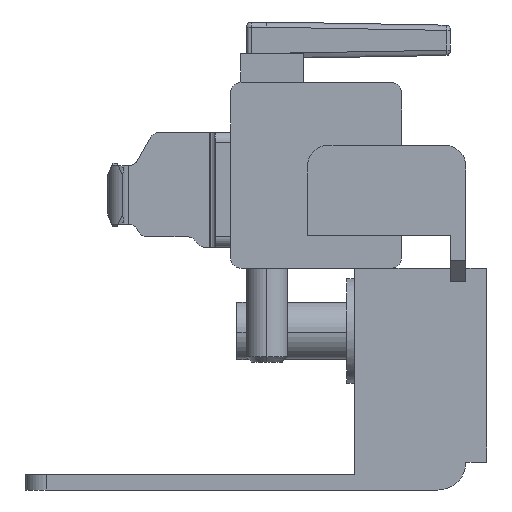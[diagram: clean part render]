
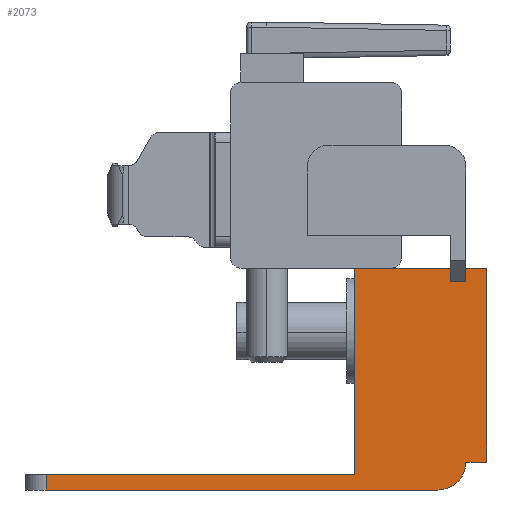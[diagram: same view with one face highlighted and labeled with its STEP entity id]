
A CAD part, left-side view. The second image highlights one B-rep face of the part: STEP entity #2073.
In plain terms, the highlighted planar face has unit normal (-1, 0, 0).
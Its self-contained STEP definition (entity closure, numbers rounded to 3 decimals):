
#7 = VECTOR ( 'NONE', #2552, 1000. ) ;
#42 = PLANE ( 'NONE',  #5022 ) ;
#87 = CARTESIAN_POINT ( 'NONE',  ( -356., -29.063, 23.319 ) ) ;
#98 = EDGE_CURVE ( 'NONE', #1948, #1236, #2447, .T. ) ;
#441 = DIRECTION ( 'NONE',  ( 0., 1., 0. ) ) ;
#808 = EDGE_CURVE ( 'NONE', #5322, #1580, #1227, .T. ) ;
#815 = CARTESIAN_POINT ( 'NONE',  ( -356., -28.333, 40.749 ) ) ;
#896 = CARTESIAN_POINT ( 'NONE',  ( -356., -30.333, 40.749 ) ) ;
#949 = VERTEX_POINT ( 'NONE', #815 ) ;
#979 = CARTESIAN_POINT ( 'NONE',  ( -356., 11.767, 21.019 ) ) ;
#1037 = CARTESIAN_POINT ( 'NONE',  ( -356., -25.663, 22.219 ) ) ;
#1060 = CARTESIAN_POINT ( 'NONE',  ( -356., 11.767, 21.319 ) ) ;
#1121 = EDGE_CURVE ( 'NONE', #2105, #1948, #4058, .T. ) ;
#1133 = EDGE_LOOP ( 'NONE', ( #4303, #1530, #5228, #1799, #1675, #3747, #4416, #3620, #3584, #5391, #2984, #3223 ) ) ;
#1204 = LINE ( 'NONE', #1910, #4711 ) ;
#1227 = LINE ( 'NONE', #3588, #3530 ) ;
#1236 = VERTEX_POINT ( 'NONE', #979 ) ;
#1243 = EDGE_CURVE ( 'NONE', #3176, #1236, #5874, .T. ) ;
#1324 = FACE_OUTER_BOUND ( 'NONE', #1133, .T. ) ;
#1329 = LINE ( 'NONE', #5670, #4964 ) ;
#1371 = CARTESIAN_POINT ( 'NONE',  ( -356., -30.333, 40.749 ) ) ;
#1508 = DIRECTION ( 'NONE',  ( 0., 0., 1. ) ) ;
#1530 = ORIENTED_EDGE ( 'NONE', *, *, #98, .T. ) ;
#1535 = CARTESIAN_POINT ( 'NONE',  ( -356., -30.333, 22.219 ) ) ;
#1536 = CARTESIAN_POINT ( 'NONE',  ( -356., -17.713, 40.749 ) ) ;
#1562 = EDGE_CURVE ( 'NONE', #3176, #4467, #1329, .T. ) ;
#1580 = VERTEX_POINT ( 'NONE', #5117 ) ;
#1668 = CARTESIAN_POINT ( 'NONE',  ( -356., -30.333, 22.219 ) ) ;
#1675 = ORIENTED_EDGE ( 'NONE', *, *, #2706, .F. ) ;
#1696 = VECTOR ( 'NONE', #4849, 1000. ) ;
#1703 = VECTOR ( 'NONE', #441, 1000. ) ;
#1799 = ORIENTED_EDGE ( 'NONE', *, *, #1562, .T. ) ;
#1831 = DIRECTION ( 'NONE',  ( 1., 0., 0. ) ) ;
#1910 = CARTESIAN_POINT ( 'NONE',  ( -356., -26.863, 40.749 ) ) ;
#1911 = CARTESIAN_POINT ( 'NONE',  ( -356., -28.333, 40.749 ) ) ;
#1928 = DIRECTION ( 'NONE',  ( 0., 0., -1. ) ) ;
#1948 = VERTEX_POINT ( 'NONE', #4635 ) ;
#1961 = CARTESIAN_POINT ( 'NONE',  ( -356., -17.713, 40.749 ) ) ;
#2025 = EDGE_CURVE ( 'NONE', #949, #5322, #5249, .T. ) ;
#2051 = VERTEX_POINT ( 'NONE', #1371 ) ;
#2073 = ADVANCED_FACE ( 'NONE', ( #1324 ), #42, .F. ) ;
#2105 = VERTEX_POINT ( 'NONE', #1536 ) ;
#2257 = EDGE_CURVE ( 'NONE', #2105, #2518, #3546, .T. ) ;
#2367 = DIRECTION ( 'NONE',  ( 0., 0., 1. ) ) ;
#2447 = LINE ( 'NONE', #2514, #4734 ) ;
#2514 = CARTESIAN_POINT ( 'NONE',  ( -356., -29.063, 21.019 ) ) ;
#2518 = VERTEX_POINT ( 'NONE', #3202 ) ;
#2552 = DIRECTION ( 'NONE',  ( 0., -1., 0. ) ) ;
#2572 = DIRECTION ( 'NONE',  ( 0., -1., 0. ) ) ;
#2614 = CARTESIAN_POINT ( 'NONE',  ( -356., 11.767, 19.549 ) ) ;
#2629 = EDGE_CURVE ( 'NONE', #1580, #2518, #1204, .T. ) ;
#2706 = EDGE_CURVE ( 'NONE', #3992, #4467, #4572, .T. ) ;
#2759 = CARTESIAN_POINT ( 'NONE',  ( -356., -28.333, 22.219 ) ) ;
#2808 = LINE ( 'NONE', #1535, #5081 ) ;
#2837 = VECTOR ( 'NONE', #1928, 1000. ) ;
#2888 = VERTEX_POINT ( 'NONE', #5554 ) ;
#2984 = ORIENTED_EDGE ( 'NONE', *, *, #2629, .T. ) ;
#3059 = LINE ( 'NONE', #1668, #1696 ) ;
#3126 = DIRECTION ( 'NONE',  ( 0., 1., 0. ) ) ;
#3176 = VERTEX_POINT ( 'NONE', #2614 ) ;
#3202 = CARTESIAN_POINT ( 'NONE',  ( -356., -26.863, 40.749 ) ) ;
#3223 = ORIENTED_EDGE ( 'NONE', *, *, #2257, .F. ) ;
#3490 = VECTOR ( 'NONE', #4053, 1000. ) ;
#3530 = VECTOR ( 'NONE', #5497, 1000. ) ;
#3546 = LINE ( 'NONE', #5266, #7 ) ;
#3584 = ORIENTED_EDGE ( 'NONE', *, *, #2025, .T. ) ;
#3588 = CARTESIAN_POINT ( 'NONE',  ( -356., -26.863, 39.459 ) ) ;
#3620 = ORIENTED_EDGE ( 'NONE', *, *, #3963, .T. ) ;
#3747 = ORIENTED_EDGE ( 'NONE', *, *, #4677, .F. ) ;
#3754 = EDGE_CURVE ( 'NONE', #2888, #2051, #3059, .T. ) ;
#3816 = DIRECTION ( 'NONE',  ( 0., 1., 0. ) ) ;
#3963 = EDGE_CURVE ( 'NONE', #2051, #949, #5327, .T. ) ;
#3992 = VERTEX_POINT ( 'NONE', #2759 ) ;
#4042 = CARTESIAN_POINT ( 'NONE',  ( -356., -28.333, 39.459 ) ) ;
#4053 = DIRECTION ( 'NONE',  ( 0., 0., 1. ) ) ;
#4058 = LINE ( 'NONE', #1961, #5253 ) ;
#4253 = DIRECTION ( 'NONE',  ( 1., 0., 0. ) ) ;
#4303 = ORIENTED_EDGE ( 'NONE', *, *, #1121, .T. ) ;
#4416 = ORIENTED_EDGE ( 'NONE', *, *, #3754, .T. ) ;
#4467 = VERTEX_POINT ( 'NONE', #5871 ) ;
#4572 = CIRCLE ( 'NONE', #5699, 2.67 ) ;
#4635 = CARTESIAN_POINT ( 'NONE',  ( -356., -17.713, 21.019 ) ) ;
#4677 = EDGE_CURVE ( 'NONE', #2888, #3992, #2808, .T. ) ;
#4711 = VECTOR ( 'NONE', #2367, 1000. ) ;
#4734 = VECTOR ( 'NONE', #3126, 1000. ) ;
#4751 = DIRECTION ( 'NONE',  ( 0., 0., -1. ) ) ;
#4849 = DIRECTION ( 'NONE',  ( 0., 0., 1. ) ) ;
#4964 = VECTOR ( 'NONE', #2572, 1000. ) ;
#5022 = AXIS2_PLACEMENT_3D ( 'NONE', #87, #1831, #5437 ) ;
#5081 = VECTOR ( 'NONE', #3816, 1000. ) ;
#5117 = CARTESIAN_POINT ( 'NONE',  ( -356., -26.863, 39.459 ) ) ;
#5228 = ORIENTED_EDGE ( 'NONE', *, *, #1243, .F. ) ;
#5249 = LINE ( 'NONE', #1911, #2837 ) ;
#5253 = VECTOR ( 'NONE', #4751, 1000. ) ;
#5266 = CARTESIAN_POINT ( 'NONE',  ( -356., -17.713, 40.749 ) ) ;
#5322 = VERTEX_POINT ( 'NONE', #4042 ) ;
#5327 = LINE ( 'NONE', #896, #1703 ) ;
#5391 = ORIENTED_EDGE ( 'NONE', *, *, #808, .T. ) ;
#5437 = DIRECTION ( 'NONE',  ( 0., 1., 0. ) ) ;
#5497 = DIRECTION ( 'NONE',  ( 0., 1., 0. ) ) ;
#5554 = CARTESIAN_POINT ( 'NONE',  ( -356., -30.333, 22.219 ) ) ;
#5670 = CARTESIAN_POINT ( 'NONE',  ( -356., 14.667, 19.549 ) ) ;
#5699 = AXIS2_PLACEMENT_3D ( 'NONE', #1037, #4253, #1508 ) ;
#5871 = CARTESIAN_POINT ( 'NONE',  ( -356., -25.663, 19.549 ) ) ;
#5874 = LINE ( 'NONE', #1060, #3490 ) ;
